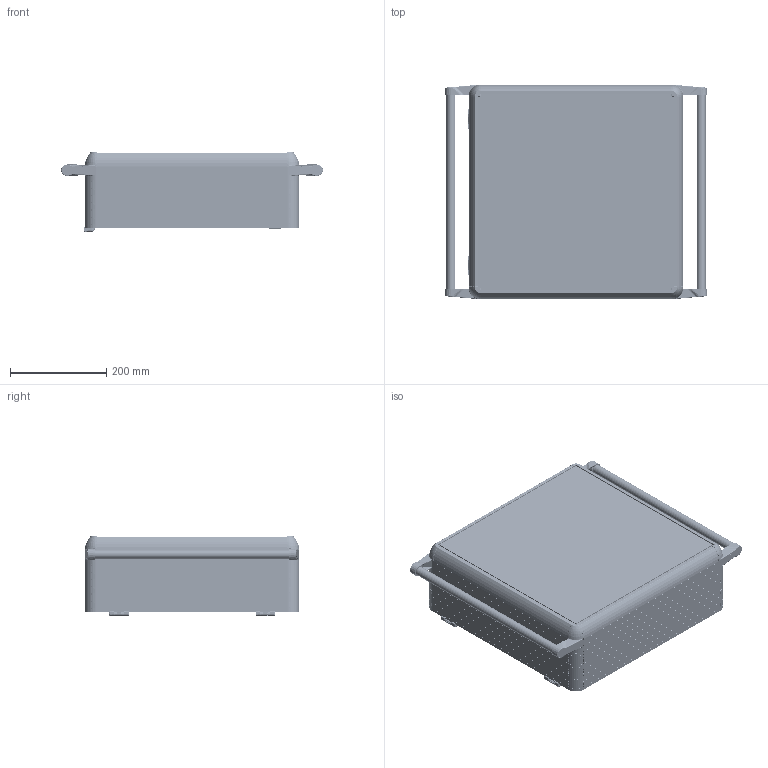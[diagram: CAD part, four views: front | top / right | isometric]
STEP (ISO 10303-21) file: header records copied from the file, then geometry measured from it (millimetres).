
FILE_DESCRIPTION (( 'STEP AP214' ), '1' );
FILE_NAME ('1500-0208.STEP', '2022-04-20T08:33:44', ( '' ), ( '' ), 'SwSTEP 2.0', 'SolidWorks 2022', '' );
FILE_SCHEMA (( 'AUTOMOTIVE_DESIGN' ));
Length unit declared in the file: millimetre
Products named in the file (12): ECO1500-0100(SAÐ); ECO1500-0100(SOL); boru_425; PLSECO-150-002; 1500-0208; ARKA_KAPAK_400X400; PLSECO-150-001; HPECO-150-002; HPECO-150-001_395; PLSECO-003; PLSECO-004; 400X400
Assembly tree (19 placements, depth 3):
  1500-0208
    400X400
    ARKA_KAPAK_400X400
    HPECO-150-001_395  x4
    boru_425  x2
    ECO1500-0100(SAÐ)  x2
      HPECO-150-002
      PLSECO-150-002
      PLSECO-150-001
      PLSECO-004
      PLSECO-003
    ECO1500-0100(SOL)  x2
Bounding box: 544.62 x 447 x 166.15 mm (x, y, z)
Volume: 2543358 mm3; surface area: 2194604.9 mm2
Topology: 48 solids, 98 shells, 11341 faces, 29448 edges, 17878 vertices
Faces by surface type: plane 3665, cylinder 3168, bspline 3052, cone 798, torus 524, sphere 134
Entity records: 283478 total; most frequent: CARTESIAN_POINT 91354, ORIENTED_EDGE 33598, DIRECTION 26859, EDGE_CURVE 16799, VERTEX_POINT 10254, AXIS2_PLACEMENT_3D 10015, VECTOR 6829, LINE 6829
